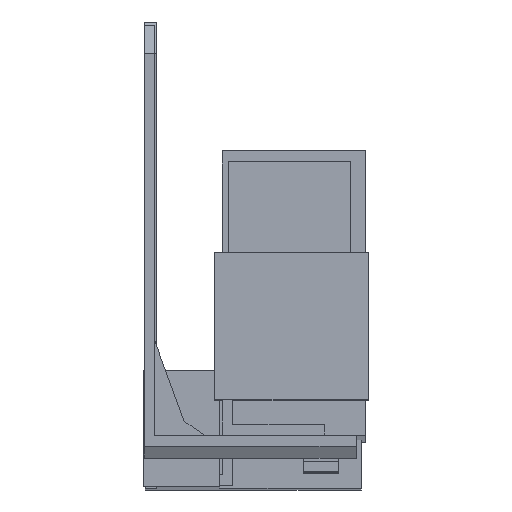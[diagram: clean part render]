
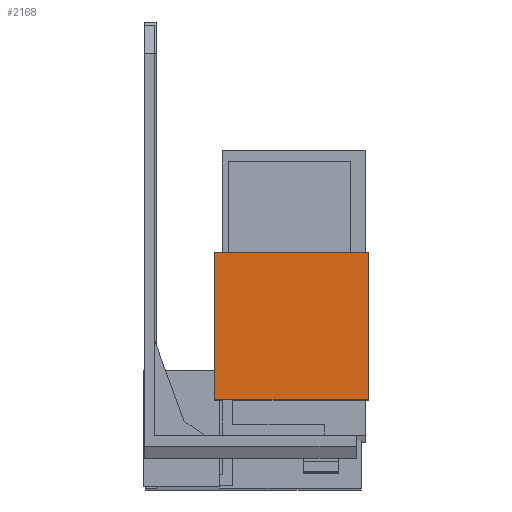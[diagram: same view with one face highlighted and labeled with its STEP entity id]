
A CAD part, front view. The second image highlights one B-rep face of the part: STEP entity #2168.
In plain terms, the highlighted planar face has unit normal (0, -1, 0.003).
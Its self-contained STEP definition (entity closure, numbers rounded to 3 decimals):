
#89 = VERTEX_POINT ( 'NONE', #2189 ) ;
#90 = VERTEX_POINT ( 'NONE', #2211 ) ;
#160 = VERTEX_POINT ( 'NONE', #3240 ) ;
#252 = VERTEX_POINT ( 'NONE', #3193 ) ;
#418 = EDGE_LOOP ( 'NONE', ( #796, #797, #798, #799 ) ) ;
#548 = VECTOR ( 'NONE', #1341, 1000. ) ;
#796 = ORIENTED_EDGE ( 'NONE', *, *, #1809, .F. ) ;
#797 = ORIENTED_EDGE ( 'NONE', *, *, #1704, .F. ) ;
#798 = ORIENTED_EDGE ( 'NONE', *, *, #1682, .T. ) ;
#799 = ORIENTED_EDGE ( 'NONE', *, *, #1836, .F. ) ;
#1195 = DIRECTION ( 'NONE',  ( 1., 0., 0. ) ) ;
#1197 = CARTESIAN_POINT ( 'NONE',  ( 9.3, -28.952, -19.322 ) ) ;
#1339 = CARTESIAN_POINT ( 'NONE',  ( 31.95, -28.952, -19.322 ) ) ;
#1341 = DIRECTION ( 'NONE',  ( 0., -0.003, -1. ) ) ;
#1408 = LINE ( 'NONE', #1339, #548 ) ;
#1682 = EDGE_CURVE ( 'NONE', #89, #90, #3062, .T. ) ;
#1704 = EDGE_CURVE ( 'NONE', #89, #160, #3026, .T. ) ;
#1809 = EDGE_CURVE ( 'NONE', #160, #252, #2258, .T. ) ;
#1836 = EDGE_CURVE ( 'NONE', #252, #90, #1408, .T. ) ;
#1929 = AXIS2_PLACEMENT_3D ( 'NONE', #4501, #4507, #4508 ) ;
#2168 = ADVANCED_FACE ( 'NONE', ( #2725 ), #4498, .T. ) ;
#2189 = CARTESIAN_POINT ( 'NONE',  ( 10.05, -29.009, -40.322 ) ) ;
#2211 = CARTESIAN_POINT ( 'NONE',  ( 31.95, -29.009, -40.322 ) ) ;
#2258 = LINE ( 'NONE', #1197, #2294 ) ;
#2294 = VECTOR ( 'NONE', #1195, 1000. ) ;
#2725 = FACE_OUTER_BOUND ( 'NONE', #418, .T. ) ;
#2727 = VECTOR ( 'NONE', #3945, 1000. ) ;
#3026 = LINE ( 'NONE', #4012, #2727 ) ;
#3054 = VECTOR ( 'NONE', #3908, 1000. ) ;
#3062 = LINE ( 'NONE', #3919, #3054 ) ;
#3193 = CARTESIAN_POINT ( 'NONE',  ( 31.95, -28.952, -19.322 ) ) ;
#3240 = CARTESIAN_POINT ( 'NONE',  ( 10.05, -28.952, -19.322 ) ) ;
#3908 = DIRECTION ( 'NONE',  ( 1., 0., 0. ) ) ;
#3919 = CARTESIAN_POINT ( 'NONE',  ( 9.3, -29.009, -40.322 ) ) ;
#3945 = DIRECTION ( 'NONE',  ( 0., 0.003, 1. ) ) ;
#4012 = CARTESIAN_POINT ( 'NONE',  ( 10.05, -29.009, -40.322 ) ) ;
#4498 = PLANE ( 'NONE',  #1929 ) ;
#4501 = CARTESIAN_POINT ( 'NONE',  ( 9.3, -29.009, -40.322 ) ) ;
#4507 = DIRECTION ( 'NONE',  ( 0., -1., 0.003 ) ) ;
#4508 = DIRECTION ( 'NONE',  ( -1., 0., 0. ) ) ;
